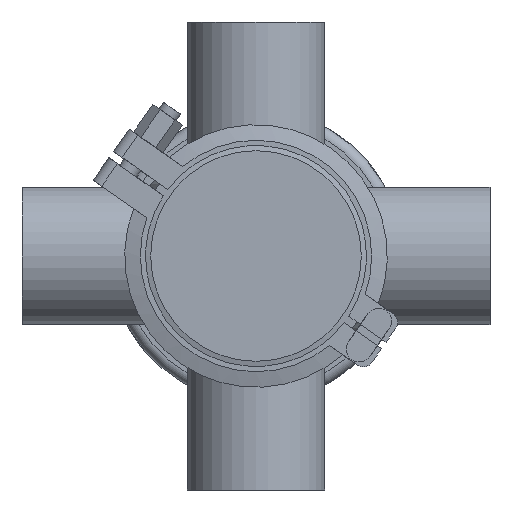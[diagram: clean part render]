
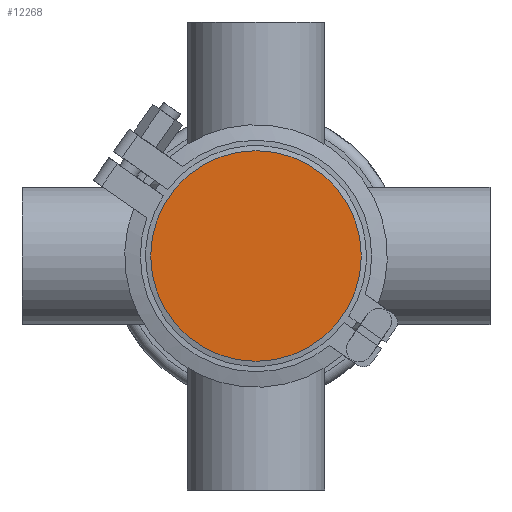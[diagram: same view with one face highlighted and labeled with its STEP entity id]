
A CAD part, front view. The second image highlights one B-rep face of the part: STEP entity #12268.
In plain terms, the highlighted planar face has unit normal (0, -1, 0).
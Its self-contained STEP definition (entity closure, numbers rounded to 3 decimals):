
#14 = PLANE ( 'NONE',  #3099 ) ;
#2032 = ORIENTED_EDGE ( 'NONE', *, *, #3245, .F. ) ;
#3099 = AXIS2_PLACEMENT_3D ( 'NONE', #12936, #5241, #13258 ) ;
#3164 = AXIS2_PLACEMENT_3D ( 'NONE', #20526, #5866, #4466 ) ;
#3245 = EDGE_CURVE ( 'NONE', #8465, #8465, #3514, .T. ) ;
#3514 = CIRCLE ( 'NONE', #3164, 40.5 ) ;
#4466 = DIRECTION ( 'NONE',  ( 0., 0., 1. ) ) ;
#5241 = DIRECTION ( 'NONE',  ( 0., -1., 0. ) ) ;
#5866 = DIRECTION ( 'NONE',  ( 0., 1., 0. ) ) ;
#8267 = CARTESIAN_POINT ( 'NONE',  ( 0., 0., 40.5 ) ) ;
#8465 = VERTEX_POINT ( 'NONE', #8267 ) ;
#12268 = ADVANCED_FACE ( 'NONE', ( #14534 ), #14, .T. ) ;
#12936 = CARTESIAN_POINT ( 'NONE',  ( -40.5, 0., 0. ) ) ;
#13258 = DIRECTION ( 'NONE',  ( 0., 0., -1. ) ) ;
#14534 = FACE_OUTER_BOUND ( 'NONE', #20677, .T. ) ;
#20526 = CARTESIAN_POINT ( 'NONE',  ( 0., 0., 0. ) ) ;
#20677 = EDGE_LOOP ( 'NONE', ( #2032 ) ) ;
